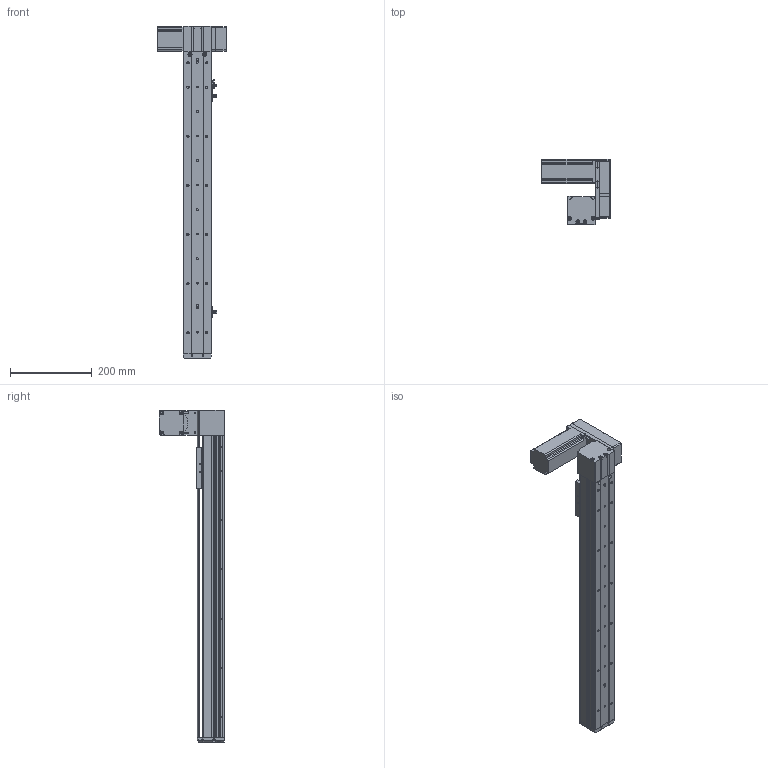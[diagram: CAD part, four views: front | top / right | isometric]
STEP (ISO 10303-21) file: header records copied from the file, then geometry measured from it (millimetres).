
FILE_DESCRIPTION (( 'STEP AP214' ), '1' );
FILE_NAME ('KSD68BS-S550-MLU-CM.STEP', '2019-11-06T06:23:38', ( '微软用户' ), ( '微软中国' ), 'SwSTEP 2.0', 'SolidWorks 2014', '' );
FILE_SCHEMA (( 'AUTOMOTIVE_DESIGN' ));
Length unit declared in the file: millimetre
Products named in the file (11): 68宽单导轨半封闭同步带主动轮座左; 68单导轨同步带半封闭端板; KSD68BS 550俴最裔啣圉猾敕; 覜茼え68遵圉猾敕; KSD68BS半封闭同步带传动导轨座; U倰嫖萇EEㄜSX672; 台达ECMA－C20604AS伺服电机（400W); KSD68BS 550俴最菁啣圉猾敕; KSD68BS-S550-MLU-CM; 悵誘欶奻狟殏; 68宽马达安装板连板上折同步带
Assembly tree (12 placements, depth 2):
  KSD68BS-S550-MLU-CM
    KSD68BS 550俴最菁啣圉猾敕
    台达ECMA－C20604AS伺服电机（400W)
    U倰嫖萇EEㄜSX672  x3
    KSD68BS半封闭同步带传动导轨座
    覜茼え68遵圉猾敕
    KSD68BS 550俴最裔啣圉猾敕
    68单导轨同步带半封闭端板
    68宽单导轨半封闭同步带主动轮座左
    68宽马达安装板连板上折同步带
    悵誘欶奻狟殏
Bounding box: 167.2 x 159.5 x 812 mm (x, y, z)
Volume: 1802486 mm3; surface area: 594330.5 mm2
Topology: 13 solids, 13 shells, 1302 faces, 3708 edges, 2408 vertices
Faces by surface type: cylinder 634, plane 585, cone 83
Entity records: 46622 total; most frequent: CARTESIAN_POINT 8658, ORIENTED_EDGE 6168, DIRECTION 6156, EDGE_CURVE 3084, AXIS2_PLACEMENT_3D 2202, VERTEX_POINT 2032, LINE 1752, VECTOR 1752
